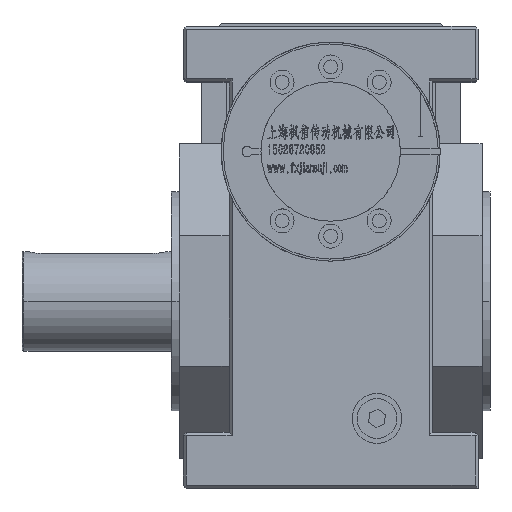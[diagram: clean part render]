
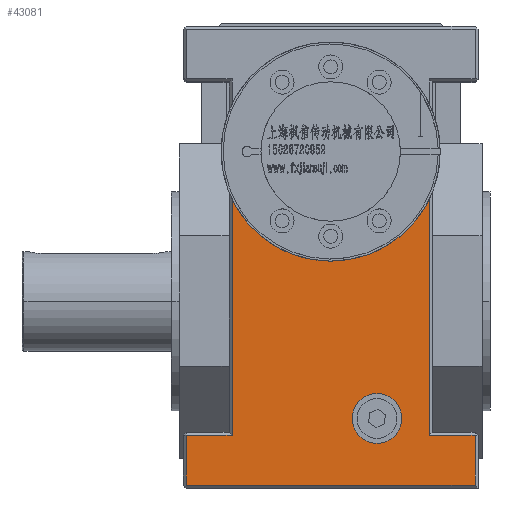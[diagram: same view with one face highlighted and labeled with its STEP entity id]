
A CAD part, top view. The second image highlights one B-rep face of the part: STEP entity #43081.
In plain terms, the highlighted planar face has unit normal (0, 0, 1).
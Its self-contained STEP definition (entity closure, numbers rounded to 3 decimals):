
#345 = ORIENTED_EDGE ( 'NONE', *, *, #82529, .T. ) ;
#1637 = DIRECTION ( 'NONE',  ( 0., -1., 0. ) ) ;
#3072 = DIRECTION ( 'NONE',  ( 0., 1., 0. ) ) ;
#5649 = EDGE_CURVE ( 'NONE', #113149, #104220, #69472, .T. ) ;
#5996 = CARTESIAN_POINT ( 'NONE',  ( 0., 75., 104. ) ) ;
#6489 = AXIS2_PLACEMENT_3D ( 'NONE', #22747, #31329, #48496 ) ;
#6848 = ORIENTED_EDGE ( 'NONE', *, *, #64457, .T. ) ;
#8127 = CARTESIAN_POINT ( 'NONE',  ( 49.5, 51.026, 104. ) ) ;
#10341 = CARTESIAN_POINT ( 'NONE',  ( 74., 138., 104. ) ) ;
#12818 = ORIENTED_EDGE ( 'NONE', *, *, #13963, .T. ) ;
#13230 = VECTOR ( 'NONE', #62559, 1000. ) ;
#13963 = EDGE_CURVE ( 'NONE', #58179, #65280, #27415, .T. ) ;
#16129 = VERTEX_POINT ( 'NONE', #104410 ) ;
#18649 = LINE ( 'NONE', #53545, #100475 ) ;
#18934 = DIRECTION ( 'NONE',  ( -1., 0., 0. ) ) ;
#21812 = VECTOR ( 'NONE', #1637, 1000. ) ;
#22747 = CARTESIAN_POINT ( 'NONE',  ( 23.262, -59., 104. ) ) ;
#23859 = DIRECTION ( 'NONE',  ( 0., -1., 0. ) ) ;
#24730 = CARTESIAN_POINT ( 'NONE',  ( 49.5, -67.5, 104. ) ) ;
#25848 = PLANE ( 'NONE',  #88899 ) ;
#26114 = CARTESIAN_POINT ( 'NONE',  ( 23.262, -59., 104. ) ) ;
#26223 = AXIS2_PLACEMENT_3D ( 'NONE', #26114, #61025, #105650 ) ;
#27192 = VECTOR ( 'NONE', #3072, 1000. ) ;
#27415 = LINE ( 'NONE', #97234, #21812 ) ;
#27656 = CARTESIAN_POINT ( 'NONE',  ( 74., -67.5, 104. ) ) ;
#29799 = CIRCLE ( 'NONE', #26223, 12.5 ) ;
#30594 = DIRECTION ( 'NONE',  ( -1., 0., 0. ) ) ;
#31329 = DIRECTION ( 'NONE',  ( 0., 0., 1. ) ) ;
#32958 = EDGE_LOOP ( 'NONE', ( #47497, #37443 ) ) ;
#34044 = EDGE_CURVE ( 'NONE', #35980, #49423, #29799, .T. ) ;
#35210 = LINE ( 'NONE', #97003, #48398 ) ;
#35980 = VERTEX_POINT ( 'NONE', #77731 ) ;
#36699 = FACE_OUTER_BOUND ( 'NONE', #95401, .T. ) ;
#37383 = VERTEX_POINT ( 'NONE', #73378 ) ;
#37443 = ORIENTED_EDGE ( 'NONE', *, *, #34044, .F. ) ;
#38520 = LINE ( 'NONE', #88887, #41208 ) ;
#41208 = VECTOR ( 'NONE', #108329, 1000. ) ;
#41728 = CARTESIAN_POINT ( 'NONE',  ( -49.5, -67.5, 104. ) ) ;
#43081 = ADVANCED_FACE ( 'NONE', ( #52718, #36699 ), #25848, .F. ) ;
#45451 = LINE ( 'NONE', #63175, #27192 ) ;
#47497 = ORIENTED_EDGE ( 'NONE', *, *, #59241, .F. ) ;
#48398 = VECTOR ( 'NONE', #54603, 1000. ) ;
#48496 = DIRECTION ( 'NONE',  ( 1., 0., 0. ) ) ;
#49423 = VERTEX_POINT ( 'NONE', #65876 ) ;
#49507 = DIRECTION ( 'NONE',  ( 0., 0., 1. ) ) ;
#49609 = CARTESIAN_POINT ( 'NONE',  ( -72.5, 138., 104. ) ) ;
#50825 = CARTESIAN_POINT ( 'NONE',  ( -49.5, 51.026, 104. ) ) ;
#52718 = FACE_BOUND ( 'NONE', #32958, .T. ) ;
#53545 = CARTESIAN_POINT ( 'NONE',  ( -74., -67.5, 104. ) ) ;
#54603 = DIRECTION ( 'NONE',  ( 1., 0., 0. ) ) ;
#55373 = EDGE_CURVE ( 'NONE', #16129, #70627, #67899, .T. ) ;
#58179 = VERTEX_POINT ( 'NONE', #50825 ) ;
#59241 = EDGE_CURVE ( 'NONE', #49423, #35980, #101606, .T. ) ;
#59935 = VECTOR ( 'NONE', #23859, 1000. ) ;
#60569 = EDGE_CURVE ( 'NONE', #104220, #101603, #45451, .T. ) ;
#61025 = DIRECTION ( 'NONE',  ( 0., 0., 1. ) ) ;
#62559 = DIRECTION ( 'NONE',  ( -1., 0., 0. ) ) ;
#63175 = CARTESIAN_POINT ( 'NONE',  ( 49.5, 54.409, 104. ) ) ;
#63887 = CIRCLE ( 'NONE', #89473, 55. ) ;
#64457 = EDGE_CURVE ( 'NONE', #65280, #16129, #18649, .T. ) ;
#65280 = VERTEX_POINT ( 'NONE', #41728 ) ;
#65876 = CARTESIAN_POINT ( 'NONE',  ( 35.762, -59., 104. ) ) ;
#66145 = ORIENTED_EDGE ( 'NONE', *, *, #107293, .F. ) ;
#67899 = LINE ( 'NONE', #49609, #59935 ) ;
#69472 = LINE ( 'NONE', #27656, #13230 ) ;
#70223 = ORIENTED_EDGE ( 'NONE', *, *, #60569, .T. ) ;
#70627 = VERTEX_POINT ( 'NONE', #97366 ) ;
#73378 = CARTESIAN_POINT ( 'NONE',  ( 72.5, -92.5, 104. ) ) ;
#77731 = CARTESIAN_POINT ( 'NONE',  ( 10.762, -59., 104. ) ) ;
#82529 = EDGE_CURVE ( 'NONE', #70627, #37383, #35210, .T. ) ;
#84422 = DIRECTION ( 'NONE',  ( 0., 1., 0. ) ) ;
#86349 = EDGE_CURVE ( 'NONE', #37383, #113149, #38520, .T. ) ;
#88887 = CARTESIAN_POINT ( 'NONE',  ( 72.5, -66., 104. ) ) ;
#88899 = AXIS2_PLACEMENT_3D ( 'NONE', #10341, #106501, #18934 ) ;
#89473 = AXIS2_PLACEMENT_3D ( 'NONE', #5996, #49507, #84422 ) ;
#95401 = EDGE_LOOP ( 'NONE', ( #345, #106602, #111148, #70223, #66145, #12818, #6848, #97645 ) ) ;
#97003 = CARTESIAN_POINT ( 'NONE',  ( 74., -92.5, 104. ) ) ;
#97234 = CARTESIAN_POINT ( 'NONE',  ( -49.5, -66., 104. ) ) ;
#97282 = CARTESIAN_POINT ( 'NONE',  ( 72.5, -67.5, 104. ) ) ;
#97366 = CARTESIAN_POINT ( 'NONE',  ( -72.5, -92.5, 104. ) ) ;
#97645 = ORIENTED_EDGE ( 'NONE', *, *, #55373, .T. ) ;
#100475 = VECTOR ( 'NONE', #30594, 1000. ) ;
#101603 = VERTEX_POINT ( 'NONE', #8127 ) ;
#101606 = CIRCLE ( 'NONE', #6489, 12.5 ) ;
#104220 = VERTEX_POINT ( 'NONE', #24730 ) ;
#104410 = CARTESIAN_POINT ( 'NONE',  ( -72.5, -67.5, 104. ) ) ;
#105650 = DIRECTION ( 'NONE',  ( 1., 0., 0. ) ) ;
#106501 = DIRECTION ( 'NONE',  ( 0., 0., -1. ) ) ;
#106602 = ORIENTED_EDGE ( 'NONE', *, *, #86349, .T. ) ;
#107293 = EDGE_CURVE ( 'NONE', #58179, #101603, #63887, .T. ) ;
#108329 = DIRECTION ( 'NONE',  ( 0., 1., 0. ) ) ;
#111148 = ORIENTED_EDGE ( 'NONE', *, *, #5649, .T. ) ;
#113149 = VERTEX_POINT ( 'NONE', #97282 ) ;
